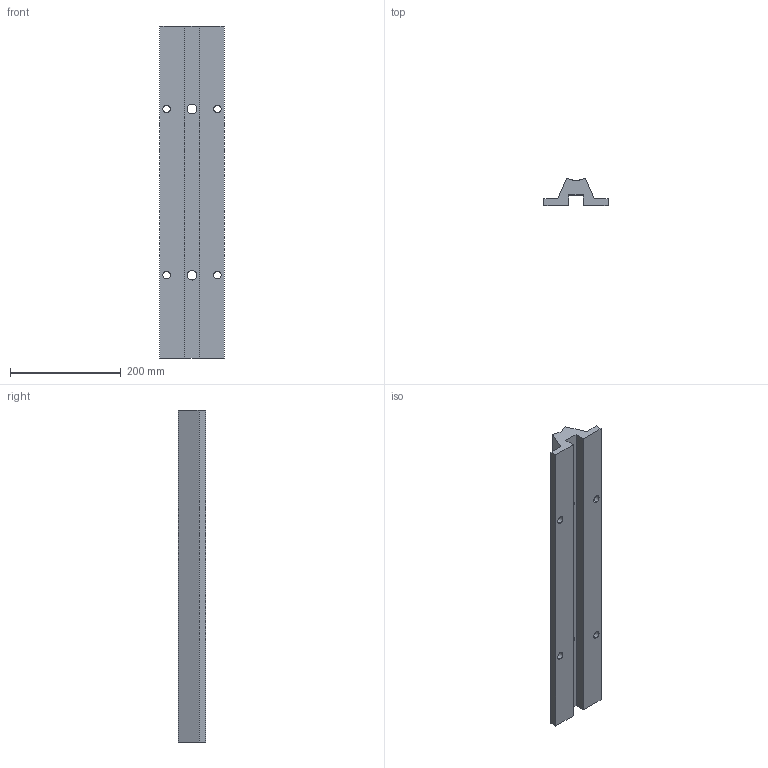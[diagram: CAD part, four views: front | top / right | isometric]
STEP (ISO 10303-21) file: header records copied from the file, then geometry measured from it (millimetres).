
FILE_DESCRIPTION (( 'STEP AP203' ), '1' );
FILE_NAME ('KWU50-80 T1-T2.step', '2020-03-23T07:55:14', ( '' ), ( '' ), 'SwSTEP 2.0', 'SolidWorks 2019', '' );
FILE_SCHEMA (( 'CONFIG_CONTROL_DESIGN' ));
Length unit declared in the file: millimetre
Products named in the file (2): KWU50-80 T1-T2
Bounding box: 116 x 49.41 x 599.5 mm (x, y, z)
Volume: 1582298.2 mm3; surface area: 215129.5 mm2
Topology: 1 solids, 1 shells, 27 faces, 77 edges, 50 vertices
Faces by surface type: plane 15, cylinder 12
Entity records: 1058 total; most frequent: CARTESIAN_POINT 168, ORIENTED_EDGE 154, DIRECTION 151, EDGE_CURVE 77, VECTOR 53, LINE 53, VERTEX_POINT 50, AXIS2_PLACEMENT_3D 49
